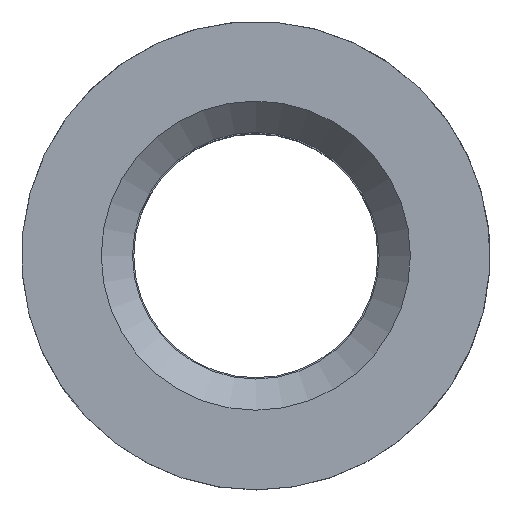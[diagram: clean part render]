
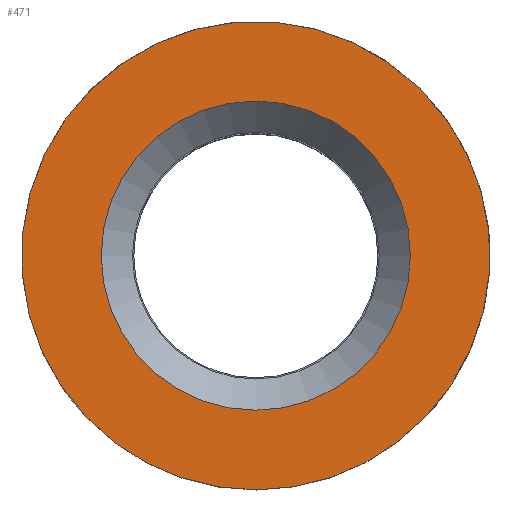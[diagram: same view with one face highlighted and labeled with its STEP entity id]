
A CAD part, top view. The second image highlights one B-rep face of the part: STEP entity #471.
In plain terms, the highlighted planar face has unit normal (0, 0, 1).
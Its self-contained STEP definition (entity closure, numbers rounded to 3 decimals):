
#25=FACE_BOUND('',#76,.T.);
#30=PLANE('',#515);
#47=FACE_OUTER_BOUND('',#75,.T.);
#75=EDGE_LOOP('',(#333,#334,#335,#336));
#76=EDGE_LOOP('',(#337));
#105=LINE('',#710,#150);
#106=LINE('',#713,#151);
#150=VECTOR('',#573,1.);
#151=VECTOR('',#576,1.);
#197=CIRCLE('',#516,14.15);
#198=CIRCLE('',#517,14.15);
#199=CIRCLE('',#518,9.339);
#216=VERTEX_POINT('',#706);
#217=VERTEX_POINT('',#707);
#218=VERTEX_POINT('',#709);
#219=VERTEX_POINT('',#711);
#220=VERTEX_POINT('',#714);
#263=EDGE_CURVE('',#216,#217,#197,.T.);
#264=EDGE_CURVE('',#217,#218,#105,.T.);
#265=EDGE_CURVE('',#218,#219,#198,.T.);
#266=EDGE_CURVE('',#219,#216,#106,.T.);
#267=EDGE_CURVE('',#220,#220,#199,.T.);
#333=ORIENTED_EDGE('',*,*,#263,.T.);
#334=ORIENTED_EDGE('',*,*,#264,.T.);
#335=ORIENTED_EDGE('',*,*,#265,.T.);
#336=ORIENTED_EDGE('',*,*,#266,.T.);
#337=ORIENTED_EDGE('',*,*,#267,.F.);
#471=ADVANCED_FACE('',(#47,#25),#30,.T.);
#515=AXIS2_PLACEMENT_3D('',#705,#569,#570);
#516=AXIS2_PLACEMENT_3D('',#708,#571,#572);
#517=AXIS2_PLACEMENT_3D('',#712,#574,#575);
#518=AXIS2_PLACEMENT_3D('',#715,#577,#578);
#569=DIRECTION('center_axis',(0.,0.,1.));
#570=DIRECTION('ref_axis',(1.,0.,0.));
#571=DIRECTION('center_axis',(0.,0.,1.));
#572=DIRECTION('ref_axis',(0.722,-0.692,0.));
#573=DIRECTION('',(0.694,-0.72,0.));
#574=DIRECTION('center_axis',(0.,0.,1.));
#575=DIRECTION('ref_axis',(-0.72,-0.694,0.));
#576=DIRECTION('',(0.692,0.722,0.));
#577=DIRECTION('center_axis',(0.,0.,1.));
#578=DIRECTION('ref_axis',(-1.,0.,0.));
#705=CARTESIAN_POINT('Origin',(0.,0.,
17.059));
#706=CARTESIAN_POINT('',(10.219,-9.787,17.059));
#707=CARTESIAN_POINT('',(-10.19,-9.817,17.059));
#708=CARTESIAN_POINT('Origin',(0.,0.,17.059));
#709=CARTESIAN_POINT('',(-10.188,-9.82,17.059));
#710=CARTESIAN_POINT('',(-10.19,-9.818,17.059));
#711=CARTESIAN_POINT('',(10.217,-9.79,17.059));
#712=CARTESIAN_POINT('Origin',(0.,0.,
17.059));
#713=CARTESIAN_POINT('',(10.217,-9.789,17.059));
#714=CARTESIAN_POINT('',(9.339,0.,17.059));
#715=CARTESIAN_POINT('Origin',(0.,0.,17.059));
